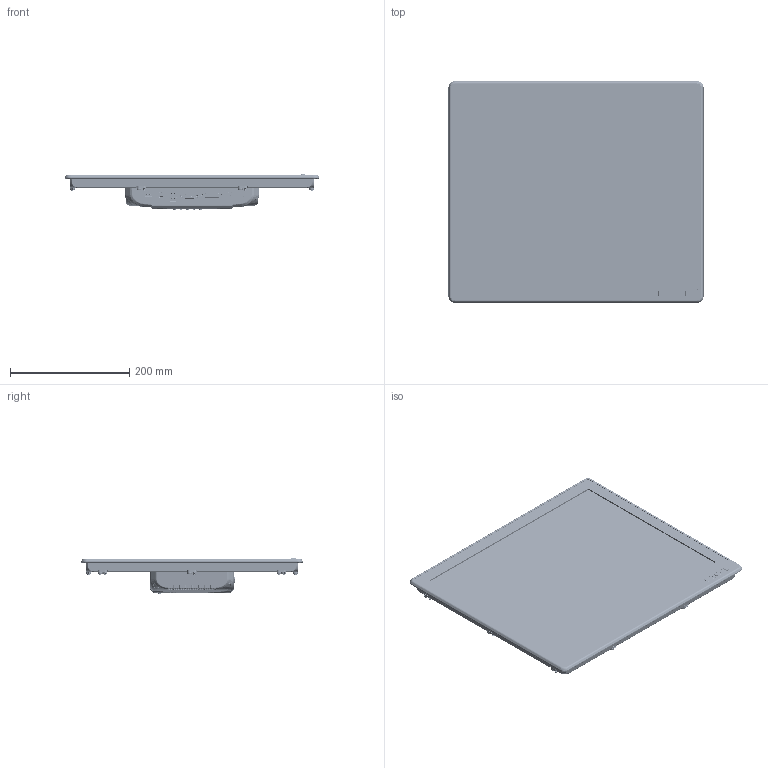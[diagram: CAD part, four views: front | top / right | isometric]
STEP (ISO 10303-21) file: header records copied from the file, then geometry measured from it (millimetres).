
FILE_DESCRIPTION (( 'STEP AP214' ), '1' );
FILE_NAME ('IDD22190.STEP', '2024-05-10T05:16:23', ( '' ), ( '' ), 'SwSTEP 2.0', 'SolidWorks 2018', '' );
FILE_SCHEMA (( 'AUTOMOTIVE_DESIGN' ));
Length unit declared in the file: millimetre
Products named in the file (1): IDD22190
Bounding box: 427.79 x 371.79 x 59.1 mm (x, y, z)
Volume: 1945002.6 mm3; surface area: 972090.9 mm2
Topology: 132 solids, 132 shells, 12389 faces, 31374 edges, 19024 vertices
Faces by surface type: plane 4945, cylinder 3806, bspline 2398, torus 802, sphere 249, cone 189
Full cylindrical faces by diameter (mm): 1.2 x2, 2.2 x12, 3.2 x14, 3.5 x1, 4 x2, 4.2 x10
Entity records: 603355 total; most frequent: CARTESIAN_POINT 188314, ORIENTED_EDGE 61634, DIRECTION 52733, EDGE_CURVE 30817, VERTEX_POINT 19020, AXIS2_PLACEMENT_3D 18081, LINE 16571, VECTOR 16571
